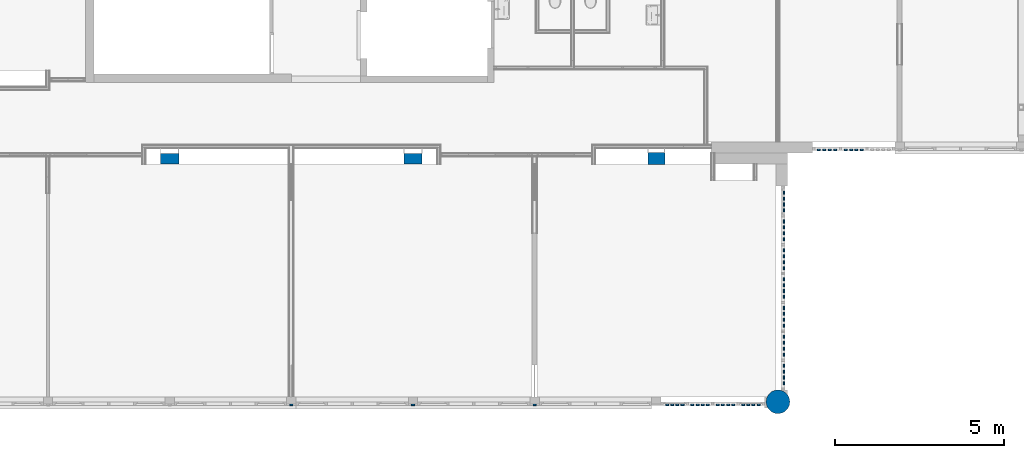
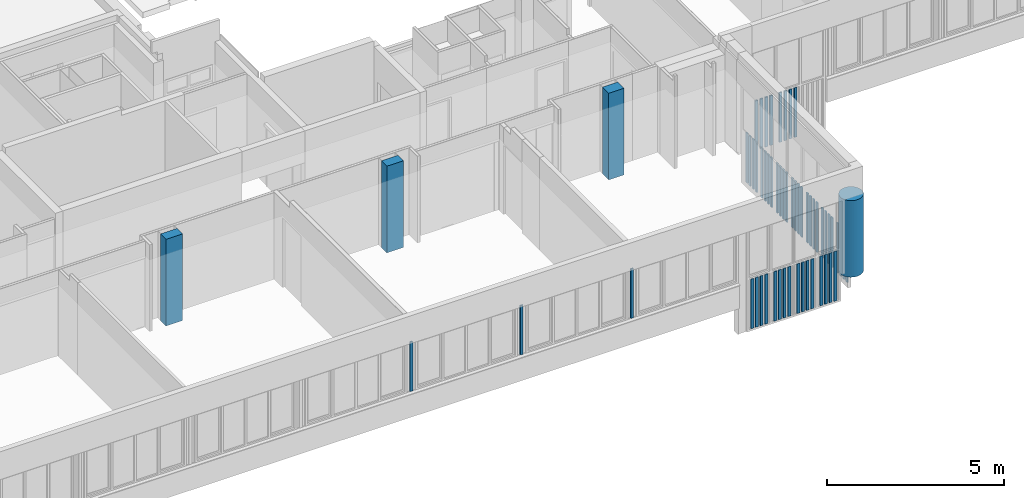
# One storey, part 12 of 99: 59 columns.
"""IFC2X3 building model written with IfcOpenShell, lengths in millimetres."""

import ifcopenshell
import ifcopenshell.guid

model = None  # the IFC model being written
_history = None  # IfcOwnerHistory: only IFC2X3 demands one
_inside = {}  # id of a spatial element -> (the spatial element, [elements in it])
_under = {}  # id of a project, library or spatial element -> (it, [spatial elements below it])
_declared = {}  # id of a project -> (the project, [libraries it declares])
_typed = {}  # id of a type object -> (the type object, [elements of that type])
_made_of = {}  # id of a material, layer set ... -> (it, [elements and type objects made of it])


def new_model(schema):
    """Start an empty IFC model of exactly this schema.

    Asked for "IFC4X3", IfcOpenShell would pick the latest addendum, in which some entities
    have other attributes; the version numbers below select the first issue.
    IFC2X3 requires an IfcOwnerHistory on every rooted entity: one is made here for all.
    """
    global model, _history
    if schema == "IFC4X3":
        model = ifcopenshell.file(schema_version=(4, 3, 0, 0))
    else:
        model = ifcopenshell.file(schema=schema)
    _inside.clear()
    _under.clear()
    _declared.clear()
    _typed.clear()
    _made_of.clear()
    _history = None
    if model.schema == "IFC2X3":
        org = make("IfcOrganization", Name="unknown")
        user = make(
            "IfcPersonAndOrganization",
            ThePerson=make("IfcPerson", FamilyName="unknown"),
            TheOrganization=org,
        )
        app = make(
            "IfcApplication",
            ApplicationDeveloper=org,
            Version="unknown",
            ApplicationFullName="unknown",
            ApplicationIdentifier="unknown",
        )
        _history = make(
            "IfcOwnerHistory",
            OwningUser=user,
            OwningApplication=app,
            ChangeAction="ADDED",
            CreationDate=0,
        )
    return model


def make(cls, **values):
    """One entity of the class cls with the attributes given. An attribute that is None is left unset."""
    return model.create_entity(
        cls, **{name: value for name, value in values.items() if value is not None}
    )


def entity(cls, *values):
    """Any entity or typed value of the class cls, its attributes in the order of the schema. None: left unset."""
    e = model.create_entity(cls)
    for i, value in enumerate(values):
        if value is not None:
            e[i] = value
    return e


def rooted(cls, **values):
    """An entity with a GlobalId (a new one), such as an element, a storey or a relation."""
    return make(cls, GlobalId=ifcopenshell.guid.new(), OwnerHistory=_history, **values)


def si_unit(unit_type, name, prefix=None):
    """IfcSIUnit, for example si_unit("LENGTHUNIT", "METRE", prefix="MILLI")."""
    return make("IfcSIUnit", UnitType=unit_type, Prefix=prefix, Name=name)


def converted_unit(unit_type, name, factor, base, dimensions=None, offset=None):
    """IfcConversionBasedUnit, such as the inch: factor (a typed value) times the base unit."""
    return make(
        "IfcConversionBasedUnit"
        if offset is None
        else "IfcConversionBasedUnitWithOffset",
        ConversionOffset=offset,
        Dimensions=None
        if dimensions is None
        else entity("IfcDimensionalExponents", *dimensions),
        UnitType=unit_type,
        Name=name,
        ConversionFactor=make(
            "IfcMeasureWithUnit", ValueComponent=factor, UnitComponent=base
        ),
    )


def derived_unit(unit_type, elements):
    """IfcDerivedUnit: a product of units, each with its exponent."""
    return make(
        "IfcDerivedUnit",
        Elements=[
            make("IfcDerivedUnitElement", Unit=unit, Exponent=power)
            for unit, power in elements
        ],
        UnitType=unit_type,
    )


def money_unit(currency):
    """IfcMonetaryUnit."""
    return make("IfcMonetaryUnit", Currency=currency)


def assignment(units):
    """IfcUnitAssignment: the units of a project."""
    return None if units is None else make("IfcUnitAssignment", Units=units)


def point(xyz):
    """IfcCartesianPoint."""
    return None if xyz is None else make("IfcCartesianPoint", Coordinates=xyz)


def direction(xyz):
    """IfcDirection."""
    return None if xyz is None else make("IfcDirection", DirectionRatios=xyz)


def frame(location, z_axis=None, x_axis=None):
    """IfcAxis2Placement3D, a coordinate frame: its origin and axes. An axis left out is left unset."""
    return make(
        "IfcAxis2Placement3D",
        Location=point(location),
        Axis=direction(z_axis),
        RefDirection=direction(x_axis),
    )


def origin_with_axes():
    """The frame at (0, 0, 0) with the z axis (0, 0, 1) and the x axis (1, 0, 0) written out."""
    return frame((0.0, 0.0, 0.0), z_axis=(0.0, 0.0, 1.0), x_axis=(1.0, 0.0, 0.0))


def place(relative_to, where):
    """IfcLocalPlacement: puts the frame where relative to a parent placement (None: the world)."""
    return make(
        "IfcLocalPlacement", PlacementRelTo=relative_to, RelativePlacement=where
    )


def context(
    kind, dimensions, precision=None, world=None, true_north=None, identifier=None
):
    """IfcGeometricRepresentationContext, for example the 3D "Model" context."""
    return make(
        "IfcGeometricRepresentationContext",
        ContextIdentifier=identifier,
        ContextType=kind,
        CoordinateSpaceDimension=dimensions,
        Precision=precision,
        WorldCoordinateSystem=world,
        TrueNorth=true_north,
    )


def subcontext(parent, identifier, kind, view, scale=None):
    """IfcGeometricRepresentationSubContext, for example "Body" below "Model"."""
    return make(
        "IfcGeometricRepresentationSubContext",
        ContextIdentifier=identifier,
        ContextType=kind,
        ParentContext=parent,
        TargetScale=scale,
        TargetView=view,
    )


def project(units=None, contexts=None):
    """IfcProject with its units and contexts."""
    return rooted(
        "IfcProject",
        Name="project",
        RepresentationContexts=contexts,
        UnitsInContext=assignment(units),
    )


def spatial(cls, under=None, at=None, **own):
    """A site, building, storey or space (cls), placed at a placement, below another one or the project."""
    s = rooted(cls, ObjectPlacement=at, **own)
    if under is not None:
        _under.setdefault(under.id(), (under, []))[1].append(s)
    return s


def faces_of(points, faces, orient=None, outer=None):
    """IfcFace entities. A face is a list of loops; a loop is a list of indices into points, from 0.

    orient and outer hold one flag for each loop. By default every Orientation is true, the
    first loop of a face is its IfcFaceOuterBound and the others are IfcFaceBound.
    """
    made = []
    for i, loops in enumerate(faces):
        bounds = []
        for j, loop in enumerate(loops):
            is_outer = j == 0 if outer is None else outer[i][j]
            bounds.append(
                make(
                    "IfcFaceOuterBound" if is_outer else "IfcFaceBound",
                    Bound=make("IfcPolyLoop", Polygon=[points[k] for k in loop]),
                    Orientation=True if orient is None else orient[i][j],
                )
            )
        made.append(make("IfcFace", Bounds=bounds))
    return made


def faceted_brep(points, faces, orient=None, outer=None, voids=None):
    """IfcFacetedBrep: a solid bounded by flat faces; with voids (closed shells), ...WithVoids."""
    shared = [point(p) for p in points]
    hull = make("IfcClosedShell", CfsFaces=faces_of(shared, faces, orient, outer))
    if voids is None:
        return make("IfcFacetedBrep", Outer=hull)
    return make(
        "IfcFacetedBrepWithVoids",
        Outer=hull,
        Voids=[
            make(cls, CfsFaces=faces_of(shared, fs, o, b)) for cls, fs, o, b in voids
        ],
    )


def shape(context_of_items, identifier, shape_type, items):
    """IfcShapeRepresentation: the items that make up one representation, for example the "Body"."""
    return make(
        "IfcShapeRepresentation",
        ContextOfItems=context_of_items,
        RepresentationIdentifier=identifier,
        RepresentationType=shape_type,
        Items=items,
    )


def material(Name=None, Category=None):
    """IfcMaterial."""
    return make("IfcMaterial", Name=Name, Category=Category)


def made_of(thing, what):
    """Note that an element or type object is made of a material, layer set ...; save() writes the relation."""
    if what is not None:
        _made_of.setdefault(what.id(), (what, []))[1].append(thing)
    return thing


def type_object(cls, material=None, **own):
    """A type object (cls), such as IfcWallType, which elements share."""
    return made_of(rooted(cls, **own), material)


def element(
    cls,
    number,
    at=None,
    inside=None,
    cuts=None,
    type_object=None,
    material=None,
    context=None,
    identifier="Body",
    shape_type=None,
    held_by="IfcProductDefinitionShape",
    body=None,
    shapes=None,
    **own,
):
    """One element of the class cls, such as IfcWall. Its Tag is "e" and its number.

    at: its placement. inside: the storey or other place that contains it. cuts: it is an
    opening in that element (IfcRelVoidsElement). A single representation is given by context,
    identifier, shape_type and body (its items); several are given by shapes. held_by: the class
    of the entity that holds the representations. save() writes the other relations.
    """
    e = rooted(cls, Tag="e%d" % number, ObjectPlacement=at, **own)
    if body is not None:
        shapes = [shape(context, identifier, shape_type, body)]
    if shapes is not None:
        e.Representation = make(held_by, Representations=shapes)
    if inside is not None:
        _inside.setdefault(inside.id(), (inside, []))[1].append(e)
    if cuts is not None:
        rooted(
            "IfcRelVoidsElement", RelatingBuildingElement=cuts, RelatedOpeningElement=e
        )
    if type_object is not None:
        _typed.setdefault(type_object.id(), (type_object, []))[1].append(e)
    return made_of(e, material)


def aggregate(whole, parts):
    """IfcRelAggregates: a whole, such as a stair, and the parts it consists of."""
    return rooted("IfcRelAggregates", RelatingObject=whole, RelatedObjects=parts)


def save(model, path):
    """Write the relations noted so far, then the file.

    IfcRelAggregates (storeys below a building ...), IfcRelContainedInSpatialStructure (elements
    in a storey), IfcRelDefinesByType, IfcRelAssociatesMaterial and IfcRelDeclares: one each for
    every whole, place, type object, material and project.
    """
    for whole, parts in _under.values():
        aggregate(whole, parts)
    for where, things in _inside.values():
        rooted(
            "IfcRelContainedInSpatialStructure",
            RelatedElements=things,
            RelatingStructure=where,
        )
    for kind, things in _typed.values():
        rooted("IfcRelDefinesByType", RelatedObjects=things, RelatingType=kind)
    for what, things in _made_of.values():
        rooted("IfcRelAssociatesMaterial", RelatedObjects=things, RelatingMaterial=what)
    for by, libraries in _declared.values():
        rooted("IfcRelDeclares", RelatingContext=by, RelatedDefinitions=libraries)
    model.write(path)


model = new_model("IFC2X3")

# Units and contexts
model_context = context("Model", 3, precision=0.01, world=origin_with_axes(), true_north=direction((0.0, 1.0)))
body_context = subcontext(model_context, "Body", "Model", "MODEL_VIEW")
ifc_project = project(units=[si_unit("LENGTHUNIT", "METRE", prefix="MILLI"), si_unit("AREAUNIT", "SQUARE_METRE"), si_unit("VOLUMEUNIT", "CUBIC_METRE"), converted_unit("PLANEANGLEUNIT", "DEGREE", entity("IfcPlaneAngleMeasure", 0.0174532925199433), si_unit("PLANEANGLEUNIT", "RADIAN"), dimensions=[0, 0, 0, 0, 0, 0, 0]), money_unit("EUR"), converted_unit("TIMEUNIT", "Year", entity("IfcTimeMeasure", 31557600.0), si_unit("TIMEUNIT", "SECOND"), dimensions=[0, 0, 1, 0, 0, 0, 0]), si_unit("MASSUNIT", "GRAM", prefix="KILO"), si_unit("THERMODYNAMICTEMPERATUREUNIT", "DEGREE_CELSIUS"), si_unit("LUMINOUSINTENSITYUNIT", "LUMEN"), si_unit("ENERGYUNIT", "JOULE", prefix="MEGA"), derived_unit("THERMALCONDUCTANCEUNIT", [(si_unit("POWERUNIT", "WATT"), 1), (si_unit("LENGTHUNIT", "METRE"), -1), (si_unit("THERMODYNAMICTEMPERATUREUNIT", "KELVIN"), -1)]), derived_unit("SPECIFICHEATCAPACITYUNIT", [(si_unit("ENERGYUNIT", "JOULE"), 1), (si_unit("MASSUNIT", "GRAM", prefix="KILO"), -1), (si_unit("THERMODYNAMICTEMPERATUREUNIT", "KELVIN"), -1)]), derived_unit("MASSDENSITYUNIT", [(si_unit("MASSUNIT", "GRAM", prefix="KILO"), 1), (si_unit("VOLUMEUNIT", "CUBIC_METRE"), -1)])], contexts=[model_context])

# Site, building, storey
site_placement = place(None, origin_with_axes())
site = spatial("IfcSite", under=ifc_project, at=site_placement, Name="Site", CompositionType="ELEMENT")
building_placement = place(site_placement, origin_with_axes())
building = spatial("IfcBuilding", under=site, at=building_placement, Name="Naam gebouw", CompositionType="ELEMENT")
storey_placement = place(building_placement, frame((0.0, 0.0, 7650.0), z_axis=(0.0, 0.0, 1.0), x_axis=(1.0, 0.0, 0.0)))
storey = spatial("IfcBuildingStorey", under=building, at=storey_placement, Name="2e verdieping N", CompositionType="ELEMENT", Elevation=7650.0)

# Columns
ifc_material_1 = material(Name="Metaal - Staal C")
column_type_1 = type_object("IfcColumnType", Name="Metaal - Staal C 90 x 44", PredefinedType="COLUMN")
for number, where, z_axis, x_axis, name in (
    (1, (29270.43364654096, 3207.668707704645, -993.0000000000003), (0.0, 0.0, 1.0), (1.0, 0.0, 0.0), "_Kolom-x"),
    (2, (29422.3780909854, 3207.668707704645, -993.0000000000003), (0.0, 0.0, 1.0), (1.0, 0.0, 0.0), "_Kolom-x"),
    (3, (29118.48920209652, 3207.668707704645, -993.0000000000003), (0.0, 0.0, 1.0), (1.0, 0.0, 0.0), "_Kolom-x"),
    (4, (29574.32253542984, 3207.668707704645, -993.0000000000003), (0.0, 0.0, 1.0), (1.0, 0.0, 0.0), "_Kolom-x"),
    (5, (29869.2392020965, 3207.668707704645, -993.0000000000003), (0.0, 0.0, 1.0), (1.0, 0.0, 0.0), "_Kolom-x"),
    (6, (30021.18364654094, 3207.668707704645, -993.0000000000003), (0.0, 0.0, 1.0), (1.0, 0.0, 0.0), "_Kolom-x"),
    (7, (30325.07253542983, 3207.668707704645, -993.0000000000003), (0.0, 0.0, 1.0), (1.0, 0.0, 0.0), "_Kolom-x"),
    (8, (30619.98920209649, 3207.668707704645, -993.0000000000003), (0.0, 0.0, 1.0), (1.0, 0.0, 0.0), "_Kolom-x"),
    (9, (30173.12809098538, 3207.668707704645, -993.0000000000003), (0.0, 0.0, 1.0), (1.0, 0.0, 0.0), "_Kolom-x"),
    (10, (30923.87809098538, 3207.668707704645, -993.0000000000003), (0.0, 0.0, 1.0), (1.0, 0.0, 0.0), "_Kolom-x"),
    (11, (31075.82253542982, 3207.668707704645, -993.0000000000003), (0.0, 0.0, 1.0), (1.0, 0.0, 0.0), "_Kolom-x"),
    (12, (31370.73920209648, 3207.668707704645, -993.0000000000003), (0.0, 0.0, 1.0), (1.0, 0.0, 0.0), "_Kolom-x"),
    (13, (30771.93364654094, 3207.668707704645, -993.0000000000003), (0.0, 0.0, 1.0), (1.0, 0.0, 0.0), "_Kolom-x"),
    (14, (31674.62809098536, 3207.668707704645, -993.0000000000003), (0.0, 0.0, 1.0), (1.0, 0.0, 0.0), "_Kolom-x"),
    (15, (31522.68364654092, 3207.668707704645, -993.0000000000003), (0.0, 0.0, 1.0), (1.0, 0.0, 0.0), "_Kolom-x"),
    (16, (31826.5725354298, 3207.668707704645, -993.0000000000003), (0.0, 0.0, 1.0), (1.0, 0.0, 0.0), "_Kolom-x"),
):
    element("IfcColumn", number, at=place(storey_placement, frame(where, z_axis=z_axis, x_axis=x_axis)), inside=storey, type_object=column_type_1, material=ifc_material_1, Name=name, ObjectType="COLUMN", context=body_context, shape_type="Brep", body=[
        faceted_brep([(-45.00000000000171, -21.9999999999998, 1713.000000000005), (-45.00000000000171, -21.9999999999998, 0.0), (45.00000000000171, -21.9999999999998, 0.0), (45.00000000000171, -21.9999999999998, 1713.000000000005), (-45.00000000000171, 21.9999999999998, 1713.000000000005), (-45.00000000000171, 21.9999999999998, 0.0), (45.00000000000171, 21.9999999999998, 0.0), (45.00000000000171, 21.9999999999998, 1713.000000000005)], [[[0, 1, 2, 3]], [[4, 5, 1, 0]], [[2, 1, 5, 6]], [[3, 2, 6, 7]], [[4, 0, 3, 7]], [[7, 6, 5, 4]]]),
    ])
column_1_placement = place(storey_placement, frame((25200.0, 3207.668707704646, 737.6344147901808), z_axis=(0.0, 0.0, 1.0), x_axis=(1.0, 0.0, 0.0)))
element("IfcColumn", 17, at=column_1_placement, inside=storey, type_object=column_type_1, material=ifc_material_1, Name="_Kolom-x", ObjectType="COLUMN", context=body_context, shape_type="Brep", body=[
    faceted_brep([(45.00000000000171, -21.9999999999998, 0.0), (45.00000000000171, -17.00973599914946, 0.879918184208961), (45.00000000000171, -17.00973599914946, 10.87991818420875), (45.00000000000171, -15.00973599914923, 10.87991818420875), (45.00000000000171, -15.00973599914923, 0.0), (45.00000000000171, 21.9999999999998, 0.0), (45.00000000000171, 21.9999999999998, 1702.36558520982), (45.00000000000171, -21.9999999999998, 1702.36558520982), (-45.00000000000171, -17.00973599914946, 0.879918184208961), (-45.00000000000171, -21.9999999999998, 0.0), (-45.00000000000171, -17.00973599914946, 10.87991818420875), (-45.00000000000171, -15.00973599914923, 10.87991818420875), (-45.00000000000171, -15.00973599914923, 0.0), (-45.00000000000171, 21.9999999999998, 0.0), (-45.00000000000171, 21.9999999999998, 1702.36558520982), (-45.00000000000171, -21.9999999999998, 1702.36558520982)], [[[0, 1, 2, 3, 4, 5, 6, 7]], [[8, 1, 0, 9]], [[10, 2, 1, 8]], [[11, 3, 2, 10]], [[12, 4, 3, 11]], [[5, 4, 12, 13]], [[14, 6, 5, 13]], [[6, 14, 15, 7]], [[15, 9, 0, 7]], [[10, 8, 9, 15, 14, 13, 12, 11]]]),
])
column_2_placement = place(storey_placement, frame((18000.0, 3207.668707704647, 737.6344147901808), z_axis=(0.0, 0.0, 1.0), x_axis=(1.0, 0.0, 0.0)))
element("IfcColumn", 18, at=column_2_placement, inside=storey, type_object=column_type_1, material=ifc_material_1, Name="_Kolom-x", ObjectType="COLUMN", context=body_context, shape_type="Brep", body=[
    faceted_brep([(45.00000000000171, -21.9999999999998, 0.0), (45.00000000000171, -17.00973599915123, 0.879918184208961), (45.00000000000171, -17.00973599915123, 10.87991818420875), (45.00000000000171, -15.00973599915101, 10.87991818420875), (45.00000000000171, -15.00973599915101, 0.0), (45.00000000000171, 21.9999999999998, 0.0), (45.00000000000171, 21.9999999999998, 1702.36558520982), (45.00000000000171, -21.9999999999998, 1702.36558520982), (-45.00000000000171, -17.00973599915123, 0.879918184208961), (-45.00000000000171, -21.9999999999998, 0.0), (-45.00000000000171, -17.00973599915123, 10.87991818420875), (-45.00000000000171, -15.00973599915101, 10.87991818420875), (-45.00000000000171, -15.00973599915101, 0.0), (-45.00000000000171, 21.9999999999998, 0.0), (-45.00000000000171, 21.9999999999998, 1702.36558520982), (-45.00000000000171, -21.9999999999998, 1702.36558520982)], [[[0, 1, 2, 3, 4, 5, 6, 7]], [[8, 1, 0, 9]], [[10, 2, 1, 8]], [[11, 3, 2, 10]], [[12, 4, 3, 11]], [[5, 4, 12, 13]], [[14, 6, 5, 13]], [[6, 14, 15, 7]], [[15, 9, 0, 7]], [[10, 8, 9, 15, 14, 13, 12, 11]]]),
])
column_3_placement = place(storey_placement, frame((21599.99999999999, 3207.668707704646, 737.6344147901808), z_axis=(0.0, 0.0, 1.0), x_axis=(1.0, 0.0, 0.0)))
element("IfcColumn", 19, at=column_3_placement, inside=storey, type_object=column_type_1, material=ifc_material_1, Name="_Kolom-x", ObjectType="COLUMN", context=body_context, shape_type="Brep", body=[
    faceted_brep([(45.00000000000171, -21.9999999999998, 0.0), (45.00000000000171, -17.00973599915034, 0.879918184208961), (45.00000000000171, -17.00973599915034, 10.87991818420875), (45.00000000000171, -15.00973599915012, 10.87991818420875), (45.00000000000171, -15.00973599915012, 0.0), (45.00000000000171, 21.9999999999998, 0.0), (45.00000000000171, 21.9999999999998, 1702.36558520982), (45.00000000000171, -21.9999999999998, 1702.36558520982), (-45.00000000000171, -17.00973599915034, 0.879918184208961), (-45.00000000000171, -21.9999999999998, 0.0), (-45.00000000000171, -17.00973599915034, 10.87991818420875), (-45.00000000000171, -15.00973599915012, 10.87991818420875), (-45.00000000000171, -15.00973599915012, 0.0), (-45.00000000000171, 21.9999999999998, 0.0), (-45.00000000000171, 21.9999999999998, 1702.36558520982), (-45.00000000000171, -21.9999999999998, 1702.36558520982)], [[[0, 1, 2, 3, 4, 5, 6, 7]], [[8, 1, 0, 9]], [[10, 2, 1, 8]], [[11, 3, 2, 10]], [[12, 4, 3, 11]], [[5, 4, 12, 13]], [[14, 6, 5, 13]], [[6, 14, 15, 7]], [[15, 9, 0, 7]], [[10, 8, 9, 15, 14, 13, 12, 11]]]),
])
for number, where, z_axis, x_axis, name in (
    (20, (33610.16666666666, 10752.91242510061, -993.0000000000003), (0.0, 0.0, 1.0), (1.0, 0.0, 0.0), "_Kolom-x"),
    (21, (33771.05555555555, 10752.91242510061, -993.0000000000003), (0.0, 0.0, 1.0), (1.0, 0.0, 0.0), "_Kolom-x"),
    (22, (33931.94444444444, 10752.91242510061, -993.0000000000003), (0.0, 0.0, 1.0), (1.0, 0.0, 0.0), "_Kolom-x"),
    (23, (34092.83333333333, 10752.91242510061, -993.0000000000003), (0.0, 0.0, 1.0), (1.0, 0.0, 0.0), "_Kolom-x"),
    (24, (34401.16666666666, 10752.91242510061, -993.0000000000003), (0.0, 0.0, 1.0), (1.0, 0.0, 0.0), "_Kolom-x"),
    (25, (34562.05555555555, 10752.91242510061, -993.0000000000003), (0.0, 0.0, 1.0), (1.0, 0.0, 0.0), "_Kolom-x"),
    (26, (34722.94444444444, 10752.91242510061, -993.0000000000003), (0.0, 0.0, 1.0), (1.0, 0.0, 0.0), "_Kolom-x"),
    (27, (34883.83333333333, 10752.91242510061, -993.0000000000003), (0.0, 0.0, 1.0), (1.0, 0.0, 0.0), "_Kolom-x"),
):
    element("IfcColumn", number, at=place(storey_placement, frame(where, z_axis=z_axis, x_axis=x_axis)), inside=storey, type_object=column_type_1, material=ifc_material_1, Name=name, ObjectType="COLUMN", context=body_context, shape_type="Brep", body=[
        faceted_brep([(-45.00000000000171, -22.00000000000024, 1713.000000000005), (-45.00000000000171, -22.00000000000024, 0.0), (45.00000000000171, -22.00000000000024, 0.0), (45.00000000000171, -22.00000000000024, 1713.000000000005), (-45.00000000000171, 22.00000000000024, 1713.000000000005), (-45.00000000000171, 22.00000000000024, 0.0), (45.00000000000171, 22.00000000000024, 0.0), (45.00000000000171, 22.00000000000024, 1713.000000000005)], [[[0, 1, 2, 3]], [[4, 5, 1, 0]], [[2, 1, 5, 6]], [[3, 2, 6, 7]], [[4, 0, 3, 7]], [[7, 6, 5, 4]]]),
    ])
column_4_placement = place(storey_placement, frame((32583.47026007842, 3843.997308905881, -993.0000000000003), z_axis=(0.0, 0.0, 1.0), x_axis=(0.0, 1.0, 0.0)))
element("IfcColumn", 28, at=column_4_placement, inside=storey, type_object=column_type_1, material=ifc_material_1, Name="_Kolom-x", ObjectType="COLUMN", context=body_context, shape_type="Brep", body=[
    faceted_brep([(-44.99999999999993, -21.99999999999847, 1713.000000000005), (-44.99999999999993, -21.99999999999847, 0.0), (44.99999999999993, -21.99999999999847, 0.0), (44.99999999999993, -21.99999999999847, 1713.000000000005), (-44.99999999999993, 21.99999999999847, 1713.000000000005), (-44.99999999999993, 21.99999999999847, 0.0), (44.99999999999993, 21.99999999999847, 0.0), (44.99999999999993, 21.99999999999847, 1713.000000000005)], [[[0, 1, 2, 3]], [[4, 5, 1, 0]], [[2, 1, 5, 6]], [[3, 2, 6, 7]], [[4, 0, 3, 7]], [[7, 6, 5, 4]]]),
])
column_5_placement = place(storey_placement, frame((32583.47026007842, 4018.727467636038, -993.0000000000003), z_axis=(0.0, 0.0, 1.0), x_axis=(0.0, 1.0, 0.0)))
element("IfcColumn", 29, at=column_5_placement, inside=storey, type_object=column_type_1, material=ifc_material_1, Name="_Kolom-x", ObjectType="COLUMN", context=body_context, shape_type="Brep", body=[
    faceted_brep([(-44.99999999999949, -21.99999999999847, 1713.000000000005), (-44.99999999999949, -21.99999999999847, 0.0), (44.99999999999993, -21.99999999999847, 0.0), (44.99999999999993, -21.99999999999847, 1713.000000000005), (-44.99999999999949, 21.99999999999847, 1713.000000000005), (-44.99999999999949, 21.99999999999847, 0.0), (44.99999999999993, 21.99999999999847, 0.0), (44.99999999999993, 21.99999999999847, 1713.000000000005)], [[[0, 1, 2, 3]], [[4, 5, 1, 0]], [[2, 1, 5, 6]], [[3, 2, 6, 7]], [[4, 0, 3, 7]], [[7, 6, 5, 4]]]),
])
for number, where, z_axis, x_axis, name in (
    (30, (32583.47026007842, 4368.187785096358, -993.0000000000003), (0.0, 0.0, 1.0), (0.0, 1.0, 0.0), "_Kolom-x"),
    (31, (32583.47026007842, 4872.013181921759, -993.0000000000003), (0.0, 0.0, 1.0), (0.0, 1.0, 0.0), "_Kolom-x"),
    (32, (32583.47026007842, 5046.743340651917, -993.0000000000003), (0.0, 0.0, 1.0), (0.0, 1.0, 0.0), "_Kolom-x"),
    (33, (32583.47026007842, 5221.473499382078, -993.0000000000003), (0.0, 0.0, 1.0), (0.0, 1.0, 0.0), "_Kolom-x"),
    (34, (32583.47026007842, 5550.568737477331, -993.0000000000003), (0.0, 0.0, 1.0), (0.0, 1.0, 0.0), "_Kolom-x"),
    (35, (32583.47026007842, 5725.298896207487, -993.0000000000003), (0.0, 0.0, 1.0), (0.0, 1.0, 0.0), "_Kolom-x"),
    (36, (32583.47026007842, 5900.029054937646, -993.0000000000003), (0.0, 0.0, 1.0), (0.0, 1.0, 0.0), "_Kolom-x"),
    (37, (32583.47026007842, 6074.759213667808, -993.0000000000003), (0.0, 0.0, 1.0), (0.0, 1.0, 0.0), "_Kolom-x"),
    (38, (32583.47026007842, 4193.457626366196, -993.0000000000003), (0.0, 0.0, 1.0), (0.0, 1.0, 0.0), "_Kolom-x"),
    (39, (32583.47026007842, 4697.283023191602, -993.0000000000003), (0.0, 0.0, 1.0), (0.0, 1.0, 0.0), "_Kolom-x"),
    (40, (32583.47026007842, 6403.854451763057, -993.0000000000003), (0.0, 0.0, 1.0), (0.0, 1.0, 0.0), "_Kolom-x"),
    (41, (32583.47026007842, 6578.584610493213, -993.0000000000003), (0.0, 0.0, 1.0), (0.0, 1.0, 0.0), "_Kolom-x"),
    (42, (32583.47026007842, 6753.314769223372, -993.0000000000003), (0.0, 0.0, 1.0), (0.0, 1.0, 0.0), "_Kolom-x"),
    (43, (32583.47026007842, 7257.140166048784, -993.0000000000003), (0.0, 0.0, 1.0), (0.0, 1.0, 0.0), "_Kolom-x"),
    (44, (32583.47026007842, 6928.044927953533, -993.0000000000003), (0.0, 0.0, 1.0), (0.0, 1.0, 0.0), "_Kolom-x"),
    (45, (32583.47026007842, 7431.87032477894, -993.0000000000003), (0.0, 0.0, 1.0), (0.0, 1.0, 0.0), "_Kolom-x"),
    (46, (32583.47026007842, 7606.600483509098, -993.0000000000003), (0.0, 0.0, 1.0), (0.0, 1.0, 0.0), "_Kolom-x"),
    (47, (32583.47026007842, 7781.33064223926, -993.0000000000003), (0.0, 0.0, 1.0), (0.0, 1.0, 0.0), "_Kolom-x"),
    (48, (32583.47026007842, 8110.42588033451, -993.0000000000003), (0.0, 0.0, 1.0), (0.0, 1.0, 0.0), "_Kolom-x"),
    (49, (32583.47026007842, 8285.156039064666, -993.0000000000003), (0.0, 0.0, 1.0), (0.0, 1.0, 0.0), "_Kolom-x"),
    (50, (32583.47026007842, 8634.616356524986, -993.0000000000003), (0.0, 0.0, 1.0), (0.0, 1.0, 0.0), "_Kolom-x"),
    (51, (32583.47026007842, 8459.886197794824, -993.0000000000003), (0.0, 0.0, 1.0), (0.0, 1.0, 0.0), "_Kolom-x"),
    (52, (32583.47026007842, 8963.711594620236, -993.0000000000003), (0.0, 0.0, 1.0), (0.0, 1.0, 0.0), "_Kolom-x"),
    (53, (32583.47026007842, 9138.441753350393, -993.0000000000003), (0.0, 0.0, 1.0), (0.0, 1.0, 0.0), "_Kolom-x"),
    (54, (32583.47026007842, 9313.171912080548, -993.0000000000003), (0.0, 0.0, 1.0), (0.0, 1.0, 0.0), "_Kolom-x"),
    (55, (32583.47026007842, 9487.902070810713, -993.0000000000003), (0.0, 0.0, 1.0), (0.0, 1.0, 0.0), "_Kolom-x"),
):
    element("IfcColumn", number, at=place(storey_placement, frame(where, z_axis=z_axis, x_axis=x_axis)), inside=storey, type_object=column_type_1, material=ifc_material_1, Name=name, ObjectType="COLUMN", context=body_context, shape_type="Brep", body=[
        faceted_brep([(-44.99999999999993, -21.99999999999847, 1713.000000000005), (-44.99999999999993, -21.99999999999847, 0.0), (44.99999999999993, -21.99999999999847, 0.0), (44.99999999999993, -21.99999999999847, 1713.000000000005), (-44.99999999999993, 21.99999999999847, 1713.000000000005), (-44.99999999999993, 21.99999999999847, 0.0), (44.99999999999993, 21.99999999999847, 0.0), (44.99999999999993, 21.99999999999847, 1713.000000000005)], [[[0, 1, 2, 3]], [[4, 5, 1, 0]], [[2, 1, 5, 6]], [[3, 2, 6, 7]], [[4, 0, 3, 7]], [[7, 6, 5, 4]]]),
    ])
ifc_material_2 = material(Name="ALG - CONSTRUCTIEF")
column_type_2 = type_object("IfcColumnType", Name="ALG - CONSTRUCTIEF 500 x 355", PredefinedType="COLUMN")
column_6_placement = place(storey_placement, frame((28800.0, 10495.91242510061, -99.99999999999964), z_axis=(0.0, 0.0, 1.0), x_axis=(1.0, 0.0, 0.0)))
element("IfcColumn", 56, at=column_6_placement, inside=storey, type_object=column_type_2, material=ifc_material_2, Name="_Kolom-x", ObjectType="COLUMN", context=body_context, shape_type="Brep", body=[
    faceted_brep([(250.0, -177.5000000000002, 3089.999999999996), (250.0, -177.5000000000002, 99.99999999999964), (250.0, 177.5000000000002, 99.99999999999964), (250.0, 177.5000000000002, 3089.999999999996), (-250.0, -177.5000000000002, 3089.999999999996), (-250.0, -177.5000000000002, 99.99999999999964), (-250.0, 177.5000000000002, 99.99999999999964), (-250.0, 177.5000000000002, 3089.999999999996)], [[[0, 1, 2, 3]], [[4, 5, 1, 0]], [[5, 6, 2, 1]], [[3, 2, 6, 7]], [[4, 0, 3, 7]], [[7, 6, 5, 4]]]),
])
column_type_3 = type_object("IfcColumnType", Name="ALG - CONSTRUCTIEF D700", PredefinedType="COLUMN")
column_7_placement = place(storey_placement, frame((32399.99999999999, 3300.223631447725, -199.9999999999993), z_axis=(0.0, 0.0, 1.0), x_axis=(1.0, 0.0, 0.0)))
element("IfcColumn", 57, at=column_7_placement, inside=storey, type_object=column_type_3, material=ifc_material_2, Name="_Kolom-x", ObjectType="COLUMN", context=body_context, shape_type="Brep", body=[
    faceted_brep([(49.81019339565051, 346.4375046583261, 0.0), (0.0, 350.0000000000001, 0.0), (0.0, 350.0000000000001, 199.9999999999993), (0.0, 350.0000000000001, 2640.0), (49.81019339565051, 346.4375046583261, 2640.0), (-318.3493099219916, 145.43534025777, 0.0), (0.0, 145.4353402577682, 0.0), (98.60639489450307, 335.8225407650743, 0.0), (145.3952545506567, 318.3711983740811, 0.0), (189.2242861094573, 294.4387364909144, 0.0), (229.2012568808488, 264.5123510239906, 0.0), (264.5123510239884, 229.2012568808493, 0.0), (294.4387364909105, 189.2242861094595, 0.0), (318.3711983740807, 145.3952545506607, 0.0), (335.8225407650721, 98.60639489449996, 0.0), (346.4375046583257, 49.81019339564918, 0.0), (350.0000000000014, 0.0, 0.0), (346.4375046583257, -49.81019339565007, 0.0), (335.8225407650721, -98.60639489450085, 0.0), (318.3711983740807, -145.3952545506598, 0.0), (294.4387364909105, -189.2242861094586, 0.0), (264.5123510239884, -229.2012568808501, 0.0), (229.2012568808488, -264.5123510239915, 0.0), (189.2242861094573, -294.4387364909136, 0.0), (145.3952545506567, -318.371198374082, 0.0), (98.60639489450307, -335.8225407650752, 0.0), (49.81019339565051, -346.437504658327, 0.0), (0.0, -350.000000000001, 0.0), (-49.81019339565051, -346.4375046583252, 0.0), (-98.60639489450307, -335.8225407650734, 0.0), (-145.3952545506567, -318.3711983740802, 0.0), (-189.2242861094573, -294.4387364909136, 0.0), (-229.2012568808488, -264.5123510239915, 0.0), (-264.5123510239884, -229.2012568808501, 0.0), (-294.4387364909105, -189.2242861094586, 0.0), (-318.3711983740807, -145.3952545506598, 0.0), (-335.8225407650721, -98.60639489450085, 0.0), (-346.4375046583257, -49.81019339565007, 0.0), (-350.0000000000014, 0.0, 0.0), (-346.4375046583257, 49.81019339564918, 0.0), (-335.8225407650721, 98.60639489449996, 0.0), (-318.3711983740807, 145.3952545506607, 0.0), (0.0, 145.4353402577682, 199.9999999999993), (-49.81019339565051, 346.4375046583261, 199.9999999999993), (-49.81019339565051, 346.4375046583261, 2640.0), (-335.8225407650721, 98.60639489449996, 2640.0), (-346.4375046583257, 49.81019339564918, 2640.0), (-350.0000000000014, 0.0, 2640.0), (-346.4375046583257, -49.81019339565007, 2640.0), (-335.8225407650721, -98.60639489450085, 2640.0), (-318.3711983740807, -145.3952545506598, 2640.0), (-294.4387364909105, -189.2242861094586, 2640.0), (-264.5123510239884, -229.2012568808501, 2640.0), (-229.2012568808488, -264.5123510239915, 2640.0), (-189.2242861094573, -294.4387364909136, 2640.0), (-145.3952545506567, -318.3711983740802, 2640.0), (-98.60639489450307, -335.8225407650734, 2640.0), (-49.81019339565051, -346.4375046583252, 2640.0), (0.0, -350.000000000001, 2640.0), (49.81019339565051, -346.437504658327, 2640.0), (98.60639489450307, -335.8225407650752, 2640.0), (145.3952545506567, -318.371198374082, 2640.0), (189.2242861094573, -294.4387364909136, 2640.0), (229.2012568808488, -264.5123510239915, 2640.0), (264.5123510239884, -229.2012568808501, 2640.0), (294.4387364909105, -189.2242861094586, 2640.0), (318.3711983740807, -145.3952545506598, 2640.0), (335.8225407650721, -98.60639489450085, 2640.0), (346.4375046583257, -49.81019339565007, 2640.0), (350.0000000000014, 0.0, 2640.0), (346.4375046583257, 49.81019339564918, 2640.0), (335.8225407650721, 98.60639489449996, 2640.0), (318.3711983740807, 145.3952545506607, 2640.0), (294.4387364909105, 189.2242861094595, 2640.0), (264.5123510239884, 229.2012568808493, 2640.0), (229.2012568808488, 264.5123510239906, 2640.0), (189.2242861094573, 294.4387364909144, 2640.0), (145.3952545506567, 318.3711983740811, 2640.0), (98.60639489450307, 335.8225407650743, 2640.0), (-98.60639489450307, 335.8225407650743, 2640.0), (-145.3952545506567, 318.3711983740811, 2640.0), (-189.2242861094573, 294.4387364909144, 2640.0), (-229.2012568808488, 264.5123510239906, 2640.0), (-264.5123510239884, 229.2012568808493, 2640.0), (-294.4387364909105, 189.2242861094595, 2640.0), (-318.3711983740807, 145.3952545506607, 2640.0), (-318.3493099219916, 145.4353402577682, 199.9999999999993), (-294.4387364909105, 189.2242861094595, 199.9999999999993), (-98.60639489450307, 335.8225407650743, 199.9999999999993), (-264.5123510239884, 229.2012568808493, 199.9999999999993), (-229.2012568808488, 264.5123510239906, 199.9999999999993), (-189.2242861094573, 294.4387364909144, 199.9999999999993), (-145.3952545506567, 318.3711983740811, 199.9999999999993)], [[[0, 1, 2, 3, 4]], [[5, 6, 1, 0, 7, 8, 9, 10, 11, 12, 13, 14, 15, 16, 17, 18, 19, 20, 21, 22, 23, 24, 25, 26, 27, 28, 29, 30, 31, 32, 33, 34, 35, 36, 37, 38, 39, 40, 41]], [[42, 2, 1, 6]], [[3, 2, 43, 44]], [[45, 46, 47, 48, 49, 50, 51, 52, 53, 54, 55, 56, 57, 58, 59, 60, 61, 62, 63, 64, 65, 66, 67, 68, 69, 70, 71, 72, 73, 74, 75, 76, 77, 78, 4, 3, 44, 79, 80, 81, 82, 83, 84, 85]], [[4, 78, 7, 0]], [[42, 6, 5, 86]], [[78, 77, 8, 7]], [[77, 76, 9, 8]], [[76, 75, 10, 9]], [[75, 74, 11, 10]], [[74, 73, 12, 11]], [[73, 72, 13, 12]], [[72, 71, 14, 13]], [[71, 70, 15, 14]], [[70, 69, 16, 15]], [[69, 68, 17, 16]], [[68, 67, 18, 17]], [[67, 66, 19, 18]], [[66, 65, 20, 19]], [[65, 64, 21, 20]], [[64, 63, 22, 21]], [[63, 62, 23, 22]], [[62, 61, 24, 23]], [[61, 60, 25, 24]], [[60, 59, 26, 25]], [[59, 58, 27, 26]], [[58, 57, 28, 27]], [[57, 56, 29, 28]], [[56, 55, 30, 29]], [[55, 54, 31, 30]], [[54, 53, 32, 31]], [[53, 52, 33, 32]], [[52, 51, 34, 33]], [[51, 50, 35, 34]], [[50, 49, 36, 35]], [[49, 48, 37, 36]], [[48, 47, 38, 37]], [[47, 46, 39, 38]], [[46, 45, 40, 39]], [[45, 85, 41, 40]], [[87, 86, 5, 41, 85, 84]], [[88, 43, 2, 42, 86, 87, 89, 90, 91, 92]], [[44, 43, 88, 79]], [[79, 88, 92, 80]], [[80, 92, 91, 81]], [[81, 91, 90, 82]], [[82, 90, 89, 83]], [[83, 89, 87, 84]]]),
])
column_type_4 = type_object("IfcColumnType", Name="ALG - CONSTRUCTIEF 540 x 310", PredefinedType="COLUMN")
for number, where, z_axis, x_axis, name in (
    (58, (14400.0, 10495.91242510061, -99.99999999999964), (0.0, 0.0, 1.0), (1.0, 0.0, 0.0), "_Kolom-x"),
    (59, (21600.0, 10495.91242510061, -99.99999999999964), (0.0, 0.0, 1.0), (1.0, 0.0, 0.0), "_Kolom-x"),
):
    element("IfcColumn", number, at=place(storey_placement, frame(where, z_axis=z_axis, x_axis=x_axis)), inside=storey, type_object=column_type_4, material=ifc_material_2, Name=name, ObjectType="COLUMN", context=body_context, shape_type="Brep", body=[
        faceted_brep([(269.9999999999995, -154.9999999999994, 3089.999999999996), (269.9999999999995, -154.9999999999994, 99.99999999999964), (269.9999999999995, 154.9999999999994, 99.99999999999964), (269.9999999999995, 154.9999999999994, 3089.999999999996), (-269.9999999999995, -154.9999999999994, 3089.999999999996), (-269.9999999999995, -154.9999999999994, 99.99999999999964), (-269.9999999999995, 154.9999999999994, 99.99999999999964), (-269.9999999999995, 154.9999999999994, 3089.999999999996)], [[[0, 1, 2, 3]], [[4, 5, 1, 0]], [[5, 6, 2, 1]], [[3, 2, 6, 7]], [[4, 0, 3, 7]], [[7, 6, 5, 4]]]),
    ])

save(model, "model.ifc")
